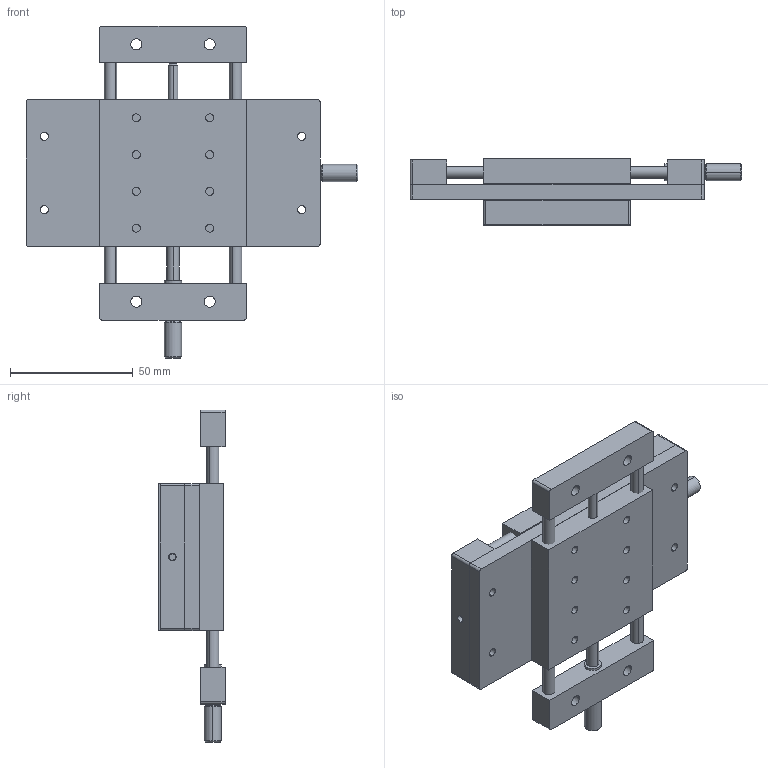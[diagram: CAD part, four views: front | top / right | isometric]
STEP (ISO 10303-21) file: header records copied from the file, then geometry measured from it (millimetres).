
FILE_DESCRIPTION (( 'STEP AP203' ), '1' );
FILE_NAME ('MNE2E-60(«¬¿ý).STEP', '2013-10-07T00:45:47', ( '' ), ( '' ), 'SwSTEP 2.0', 'SolidWorks 2013', '' );
FILE_SCHEMA (( 'CONFIG_CONTROL_DESIGN' ));
Length unit declared in the file: millimetre
Products named in the file (5): Group2^MNE2E-60(型錄); Group3^MNE2E-60(型錄); Group5^MNE2E-60(型錄); MNE2E-60(型錄); Group1^MNE2E-60(型錄)
Assembly tree (4 placements, depth 2):
  MNE2E-60(型錄)
    Group1^MNE2E-60(型錄)
    Group2^MNE2E-60(型錄)
    Group3^MNE2E-60(型錄)
    Group5^MNE2E-60(型錄)
Bounding box: 135.5 x 27 x 135.5 mm (x, y, z)
Volume: 156326.3 mm3; surface area: 56240.7 mm2
Topology: 4 solids, 4 shells, 730 faces, 1879 edges, 1234 vertices
Faces by surface type: plane 434, cylinder 154, bspline 110, cone 32
Entity records: 28040 total; most frequent: CARTESIAN_POINT 10064, ORIENTED_EDGE 3758, DIRECTION 3239, EDGE_CURVE 1879, LINE 1333, VECTOR 1333, VERTEX_POINT 1234, AXIS2_PLACEMENT_3D 953
